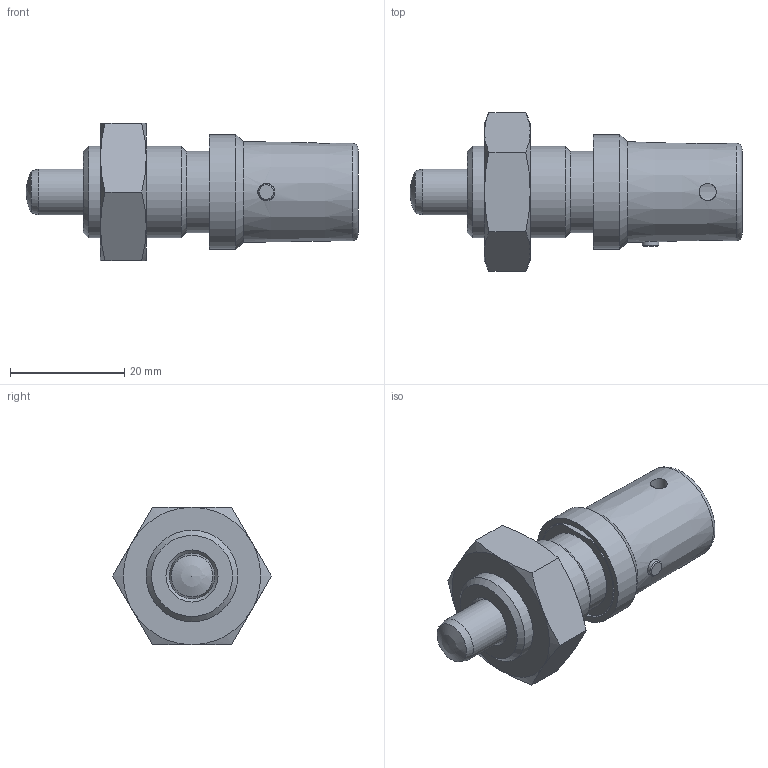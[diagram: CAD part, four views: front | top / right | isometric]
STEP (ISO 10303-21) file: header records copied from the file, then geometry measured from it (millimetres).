
FILE_DESCRIPTION( ( 'STEP AP203' ), '1' );
FILE_NAME( 'C:/Temp/Ganter_Step_05_03_2020/data/3_1/gn816/gn_816_bk/Locking plunger GN 816-8-M16x1,5-BK (deactivated).stp', '2020-03-12T08:56:03', ( 'License CC BY-ND 4.0' ), ( 'CADENAS' ), ' ', 'PARTsolutions', ' ' );
FILE_SCHEMA( ( 'CONFIG_CONTROL_DESIGN' ) );
Length unit declared in the file: millimetre
Products named in the file (4): Locking plunger GN 816-8-M16x1,5-BK (deactivated); _GN 816-8-M16x1,5-B(0)-b2; _GN 816-8-M16x1,5-Bb1; _Lock nut ISO 8675 GN 816-8-M16x1,5-AK
Assembly tree (3 placements, depth 2):
  Locking plunger GN 816-8-M16x1,5-BK (deactivated)
    _GN 816-8-M16x1,5-B(0)-b2
    _GN 816-8-M16x1,5-Bb1
    _Lock nut ISO 8675 GN 816-8-M16x1,5-AK
Bounding box: 58 x 27.71 x 24 mm (x, y, z)
Volume: 12056.5 mm3; surface area: 7774.2 mm2
Topology: 3 solids, 3 shells, 63 faces, 128 edges, 77 vertices
Faces by surface type: cone 25, plane 20, cylinder 15, torus 2, sphere 1
Full cylindrical faces by diameter (mm): 2.9 x2, 3 x2, 7 x1, 8 x2, 11.1 x1, 14.2 x1, 14.376 x1, 16 x1, 18 x1, 20 x1
Entity records: 1997 total; most frequent: CARTESIAN_POINT 696, DIRECTION 246, ORIENTED_EDGE 188, AXIS2_PLACEMENT_3D 117, EDGE_LOOP 106, EDGE_CURVE 94, FACE_OUTER_BOUND 78, VERTEX_POINT 73
